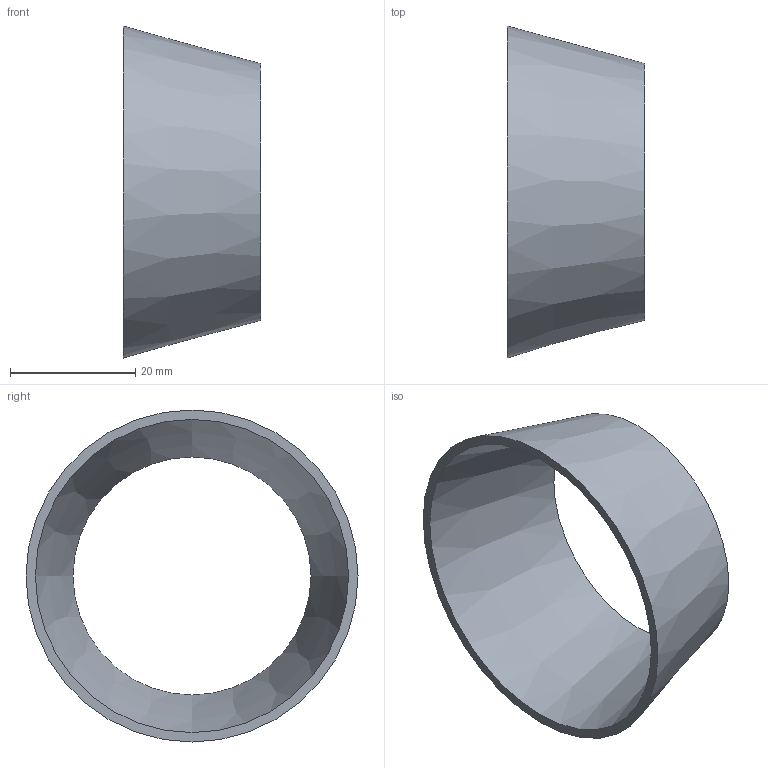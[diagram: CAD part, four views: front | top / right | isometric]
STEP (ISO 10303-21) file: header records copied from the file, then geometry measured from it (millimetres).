
FILE_DESCRIPTION(('FreeCAD Model'),'2;1');
FILE_NAME( '/home/martin/Documents/proyect/accesorios/stp/red-con_DN50-40.step', '2017-12-31T12:23:18',('Author'),(''), 'Open CASCADE STEP processor 6.8','FreeCAD','Unknown');
FILE_SCHEMA(('AUTOMOTIVE_DESIGN_CC2 { 1 2 10303 214 -1 1 5 4 }'));
Length unit declared in the file: millimetre
Products named in the file (1): red-con_DN50-40
Bounding box: 22 x 53 x 53 mm (x, y, z)
Volume: 4717.1 mm3; surface area: 6948 mm2
Topology: 1 solids, 1 shells, 4 faces, 6 edges, 4 vertices
Faces by surface type: cone 2, plane 2
Entity records: 191 total; most frequent: CARTESIAN_POINT 33, DIRECTION 26, ORIENTED_EDGE 12, PCURVE 12, DEFINITIONAL_REPRESENTATION 12, AXIS2_PLACEMENT_3D 9, CIRCLE 8, FACE_BOUND 6
